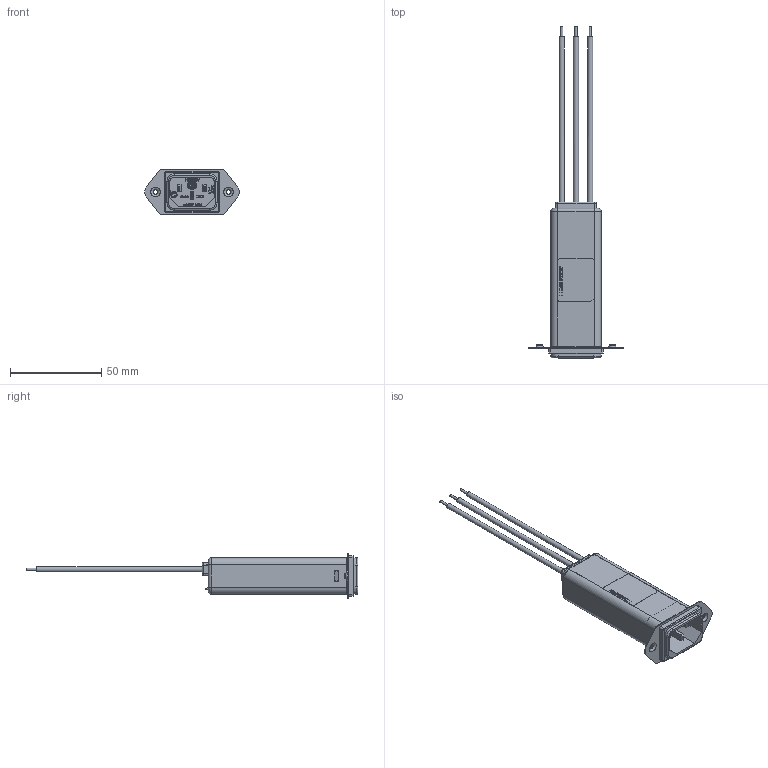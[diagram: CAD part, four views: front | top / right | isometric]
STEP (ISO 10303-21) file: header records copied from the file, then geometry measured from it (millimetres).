
FILE_DESCRIPTION(/* description */ ('naming raw material'),/* implementation_level */ '2;1');
FILE_NAME(/* name */ 'C:\SapWorkDir\Inventor\P01\ConvertTempPath\193014_IPT_000.ipt.stp',/* time_stamp */ '2018-07-03T09:53:52+07:00',/* author */ ('Eakchai.Yodchai'),/* organization */ ('Schaffner Thailand Ltd.'),/* preprocessor_version */ 'ST-DEVELOPER v16.5',/* originating_system */ 'Autodesk Inventor 2017',/* authorisation */ '');
FILE_SCHEMA (('AUTOMOTIVE_DESIGN { 1 0 10303 214 3 1 1 }'));
Products named in the file (1): 193014_IPT_000
Bounding box: 51.85 x 182 x 25 mm (x, y, z)
Volume: 14516.7 mm3; surface area: 33869.2 mm2
Topology: 1 solids, 5 shells, 1832 faces, 5100 edges, 3340 vertices
Faces by surface type: plane 1276, bspline 344, cylinder 167, torus 41, cone 4
Full cylindrical faces by diameter (mm): 1.28 x15, 2 x4, 2.459 x2, 2.8 x3, 3.15 x1, 3.2 x3, 3.5 x1
Entity records: 62262 total; most frequent: CARTESIAN_POINT 15506, ORIENTED_EDGE 10060, DIRECTION 7822, EDGE_CURVE 5028, LINE 3858, VECTOR 3858, VERTEX_POINT 3324, EDGE_LOOP 2028
